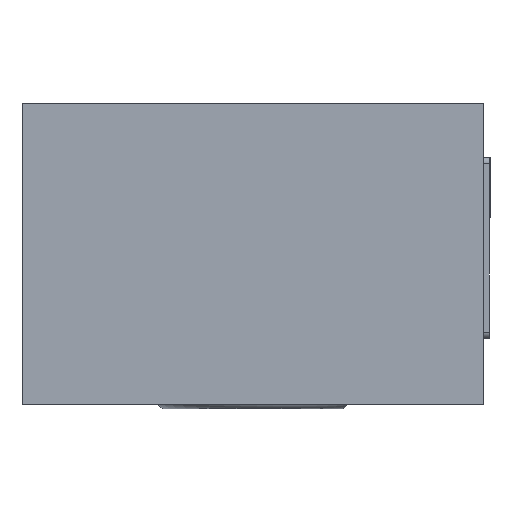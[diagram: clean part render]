
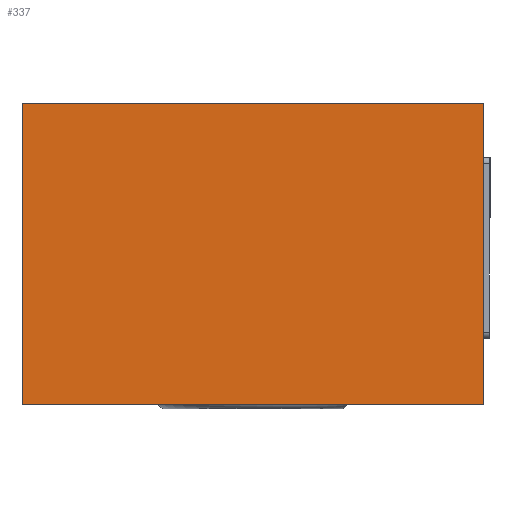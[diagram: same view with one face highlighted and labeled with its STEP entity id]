
A CAD part, left-side view. The second image highlights one B-rep face of the part: STEP entity #337.
In plain terms, the highlighted planar face has unit normal (-1, 0, 0).
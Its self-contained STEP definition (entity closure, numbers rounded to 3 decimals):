
#110=FACE_OUTER_BOUND('',#700,.T.);
#155=PLANE('',#1521);
#200=LINE('',#2121,#267);
#204=LINE('',#2138,#271);
#208=LINE('',#2161,#275);
#209=LINE('',#2162,#276);
#267=VECTOR('',#1687,1.);
#271=VECTOR('',#1701,1.);
#275=VECTOR('',#1721,1.);
#276=VECTOR('',#1722,1.);
#337=ADVANCED_FACE('',(#110),#155,.F.);
#700=EDGE_LOOP('',(#871,#872,#873,#874));
#871=ORIENTED_EDGE('',*,*,#1332,.T.);
#872=ORIENTED_EDGE('',*,*,#1351,.F.);
#873=ORIENTED_EDGE('',*,*,#1340,.F.);
#874=ORIENTED_EDGE('',*,*,#1352,.T.);
#1196=VERTEX_POINT('',#2122);
#1197=VERTEX_POINT('',#2123);
#1204=VERTEX_POINT('',#2139);
#1205=VERTEX_POINT('',#2140);
#1332=EDGE_CURVE('',#1196,#1197,#200,.T.);
#1340=EDGE_CURVE('',#1204,#1205,#204,.T.);
#1351=EDGE_CURVE('',#1205,#1197,#208,.T.);
#1352=EDGE_CURVE('',#1204,#1196,#209,.T.);
#1521=AXIS2_PLACEMENT_3D('',#2163,#1723,#1724);
#1687=DIRECTION('',(0.,1.,0.));
#1701=DIRECTION('',(0.,1.,0.));
#1721=DIRECTION('',(0.,0.,1.));
#1722=DIRECTION('',(0.,0.,1.));
#1723=DIRECTION('',(1.,0.,0.));
#1724=DIRECTION('',(0.,0.,1.));
#2121=CARTESIAN_POINT('',(65.708,304.468,50.));
#2122=CARTESIAN_POINT('',(65.708,304.468,50.));
#2123=CARTESIAN_POINT('',(65.708,380.97,50.));
#2138=CARTESIAN_POINT('',(65.708,304.468,0.));
#2139=CARTESIAN_POINT('',(65.708,304.468,0.));
#2140=CARTESIAN_POINT('',(65.708,380.97,0.));
#2161=CARTESIAN_POINT('',(65.708,380.97,0.));
#2162=CARTESIAN_POINT('',(65.708,304.468,0.));
#2163=CARTESIAN_POINT('',(65.708,304.468,0.));
